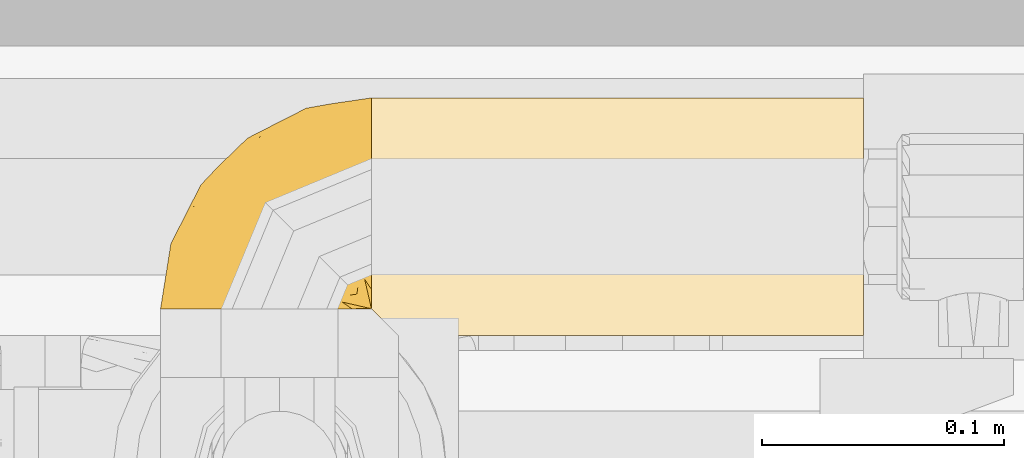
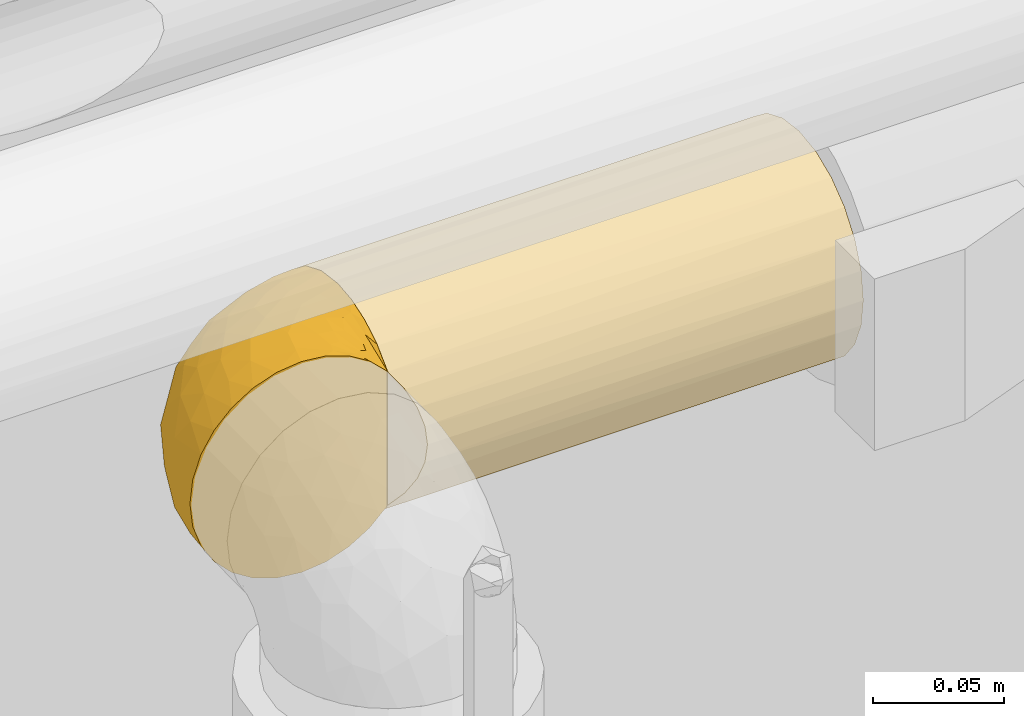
# One storey, part 45 of 94: 2 coverings.
"""IFC2X3 building model written with IfcOpenShell, lengths in millimetres."""

from ifc_helpers import new_model, entity, si_unit, converted_unit, derived_unit, direction, frame, origin, place, context, subcontext, project, spatial, faceted_brep, material, element, save


model = new_model("IFC2X3")

# Units and contexts
model_context = context("Model", 3, precision=0.01, world=origin(), true_north=direction((6.123031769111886e-17, 1.0)))
body_context = subcontext(model_context, "Body", "Model", "MODEL_VIEW")
ifc_project = project(units=[si_unit("LENGTHUNIT", "METRE", prefix="MILLI"), si_unit("AREAUNIT", "SQUARE_METRE"), si_unit("VOLUMEUNIT", "CUBIC_METRE"), converted_unit("PLANEANGLEUNIT", "DEGREE", entity("IfcRatioMeasure", 0.017453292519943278), si_unit("PLANEANGLEUNIT", "RADIAN"), dimensions=[0, 0, 0, 0, 0, 0, 0]), si_unit("MASSUNIT", "GRAM", prefix="KILO"), derived_unit("MASSDENSITYUNIT", [(si_unit("MASSUNIT", "GRAM", prefix="KILO"), 1), (si_unit("LENGTHUNIT", "METRE"), -3)]), derived_unit("IONCONCENTRATIONUNIT", [(si_unit("MASSUNIT", "GRAM", prefix="KILO"), 1), (si_unit("LENGTHUNIT", "METRE"), -3)]), derived_unit("MOMENTOFINERTIAUNIT", [(si_unit("LENGTHUNIT", "METRE"), 4)]), si_unit("TIMEUNIT", "SECOND"), si_unit("FREQUENCYUNIT", "HERTZ"), si_unit("THERMODYNAMICTEMPERATUREUNIT", "DEGREE_CELSIUS"), derived_unit("THERMALTRANSMITTANCEUNIT", [(si_unit("MASSUNIT", "GRAM", prefix="KILO"), 1), (si_unit("THERMODYNAMICTEMPERATUREUNIT", "KELVIN"), -1), (si_unit("TIMEUNIT", "SECOND"), -3)]), derived_unit("THERMALCONDUCTANCEUNIT", [(si_unit("MASSUNIT", "GRAM", prefix="KILO"), 1), (si_unit("THERMODYNAMICTEMPERATUREUNIT", "KELVIN"), -1), (si_unit("TIMEUNIT", "SECOND"), -3), (si_unit("LENGTHUNIT", "METRE"), 1)]), derived_unit("VOLUMETRICFLOWRATEUNIT", [(si_unit("LENGTHUNIT", "METRE"), 3), (si_unit("TIMEUNIT", "SECOND"), -1)]), derived_unit("MASSFLOWRATEUNIT", [(si_unit("MASSUNIT", "GRAM", prefix="KILO"), 1), (si_unit("TIMEUNIT", "SECOND"), -1)]), derived_unit("ROTATIONALFREQUENCYUNIT", [(si_unit("TIMEUNIT", "SECOND"), -1)]), si_unit("ELECTRICCURRENTUNIT", "AMPERE"), si_unit("ELECTRICVOLTAGEUNIT", "VOLT"), si_unit("POWERUNIT", "WATT"), si_unit("FORCEUNIT", "NEWTON", prefix="KILO"), si_unit("ILLUMINANCEUNIT", "LUX"), si_unit("LUMINOUSFLUXUNIT", "LUMEN"), si_unit("LUMINOUSINTENSITYUNIT", "CANDELA"), derived_unit("USERDEFINED", [(si_unit("MASSUNIT", "GRAM", prefix="KILO"), -1), (si_unit("LENGTHUNIT", "METRE"), -2), (si_unit("TIMEUNIT", "SECOND"), 3), (si_unit("LUMINOUSFLUXUNIT", "LUMEN"), 1)]), derived_unit("USERDEFINED", [(si_unit("MASSUNIT", "GRAM", prefix="KILO"), 1), (si_unit("TIMEUNIT", "SECOND"), -3), (si_unit("LENGTHUNIT", "METRE"), 3), (si_unit("ELECTRICCURRENTUNIT", "AMPERE"), -2)]), derived_unit("SOUNDPOWERUNIT", [(si_unit("MASSUNIT", "GRAM", prefix="KILO"), 1), (si_unit("TIMEUNIT", "SECOND"), -3), (si_unit("LENGTHUNIT", "METRE"), 2)]), derived_unit("SOUNDPRESSUREUNIT", [(si_unit("MASSUNIT", "GRAM", prefix="KILO"), 1), (si_unit("LENGTHUNIT", "METRE"), -1), (si_unit("TIMEUNIT", "SECOND"), -2)]), derived_unit("LINEARVELOCITYUNIT", [(si_unit("LENGTHUNIT", "METRE"), 1), (si_unit("TIMEUNIT", "SECOND"), -1)]), si_unit("PRESSUREUNIT", "PASCAL"), derived_unit("USERDEFINED", [(si_unit("MASSUNIT", "GRAM", prefix="KILO"), 1), (si_unit("LENGTHUNIT", "METRE"), -2), (si_unit("TIMEUNIT", "SECOND"), -2)]), derived_unit("LINEARFORCEUNIT", [(si_unit("MASSUNIT", "GRAM", prefix="KILO"), 1), (si_unit("TIMEUNIT", "SECOND"), -2)]), derived_unit("PLANARFORCEUNIT", [(si_unit("MASSUNIT", "GRAM", prefix="KILO"), 1), (si_unit("LENGTHUNIT", "METRE"), -1), (si_unit("TIMEUNIT", "SECOND"), -2)]), derived_unit("SPECIFICHEATCAPACITYUNIT", [(si_unit("THERMODYNAMICTEMPERATUREUNIT", "KELVIN"), -1), (si_unit("LENGTHUNIT", "METRE"), 2), (si_unit("TIMEUNIT", "SECOND"), -2)]), derived_unit("HEATINGVALUEUNIT", [(si_unit("LENGTHUNIT", "METRE"), 2), (si_unit("TIMEUNIT", "SECOND"), -2)]), derived_unit("VAPORPERMEABILITYUNIT", [(si_unit("LENGTHUNIT", "METRE"), -1), (si_unit("TIMEUNIT", "SECOND"), 1)]), derived_unit("DYNAMICVISCOSITYUNIT", [(si_unit("MASSUNIT", "GRAM", prefix="KILO"), 1), (si_unit("TIMEUNIT", "SECOND"), -1), (si_unit("LENGTHUNIT", "METRE"), -1)]), derived_unit("THERMALEXPANSIONCOEFFICIENTUNIT", [(si_unit("THERMODYNAMICTEMPERATUREUNIT", "KELVIN"), -1)]), derived_unit("MODULUSOFELASTICITYUNIT", [(si_unit("MASSUNIT", "GRAM", prefix="KILO"), 1), (si_unit("LENGTHUNIT", "METRE"), -1), (si_unit("TIMEUNIT", "SECOND"), -2)]), derived_unit("ISOTHERMALMOISTURECAPACITYUNIT", [(si_unit("LENGTHUNIT", "METRE"), 3), (si_unit("MASSUNIT", "GRAM", prefix="KILO"), -1)]), derived_unit("MOISTUREDIFFUSIVITYUNIT", [(si_unit("TIMEUNIT", "SECOND"), -1), (si_unit("LENGTHUNIT", "METRE"), 2)])], contexts=[model_context])

# Site, building, storey
site_placement = place(None, origin())
site = spatial("IfcSite", under=ifc_project, at=site_placement, Name="Default", CompositionType="ELEMENT")
building_placement = place(site_placement, origin())
building = spatial("IfcBuilding", under=site, at=building_placement, CompositionType="ELEMENT")
storey_placement = place(building_placement, origin())
storey = spatial("IfcBuildingStorey", under=building, at=storey_placement, Name="Niveau 0", CompositionType="ELEMENT", Elevation=0.0)

# Coverings
ifc_material = material(Name="Isolation - Laine minérale")
covering_1_placement = place(storey_placement, frame((-9522.891137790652, 9987.25035233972, 2800.745272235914)))
element("IfcCovering", 1, at=covering_1_placement, inside=storey, material=ifc_material, Name="Isolation des canalisations:Laine minérale", ObjectType="Isolation des canalisations:Laine minérale", PredefinedType="INSULATION", context=body_context, shape_type="Brep", body=[
    faceted_brep([(29.412134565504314, 1.5952722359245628, -6.466386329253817), (20.093252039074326, 1.5952722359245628, -12.324234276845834), (12.312548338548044, 1.5952722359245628, -20.107905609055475), (6.459227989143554, 1.5952722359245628, -29.426998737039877), (2.8261403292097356, 1.5952722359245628, -39.814613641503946), (1.5952722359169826, 1.5952722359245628, -50.7452722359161), (2.8288129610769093, 1.5952722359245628, -61.68764083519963), (6.466386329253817, 1.5952722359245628, -72.07840990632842), (12.324234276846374, 1.5952722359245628, -81.39729243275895), (20.107905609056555, 1.5952722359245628, -89.17799613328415), (29.42699873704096, 1.5952722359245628, -95.03131648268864), (39.81461364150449, 1.5952722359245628, -98.66440414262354), (50.74527223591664, 1.5952722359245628, -99.8952722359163), (61.40435822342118, 1.5952722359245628, -98.72554303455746), (71.55257335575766, 1.5952722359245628, -95.27367575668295), (80.70896636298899, 1.5952722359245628, -89.70550239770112), (88.43165280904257, 1.5952722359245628, -82.2961711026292), (88.43165280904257, 1.5952722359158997, -79.85190220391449), (88.43165280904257, 1.5952722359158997, -78.07484973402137), (88.43165280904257, 1.5952722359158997, -76.2977972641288), (88.43165280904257, 1.5952722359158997, -74.79820380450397), (88.43165280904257, 1.5952722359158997, -73.2986103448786), (88.43165280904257, 1.5952722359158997, -70.29942342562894), (88.43165280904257, 1.5952722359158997, -67.30023650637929), (88.43165280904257, 1.5952722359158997, -64.30104958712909), (88.43165280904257, 1.5952722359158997, -61.301862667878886), (88.43165280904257, 1.5952722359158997, -59.80226920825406), (88.43165280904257, 1.5952722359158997, -58.30267574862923), (88.43165280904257, 1.5952722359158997, -55.858406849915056), (88.43165280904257, 1.5952722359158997, -53.41413795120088), (88.43165280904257, 1.5952722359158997, -50.96986905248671), (88.43165280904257, 1.5952722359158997, -48.52560015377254), (88.4316528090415, 1.5952722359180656, -46.08133125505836), (88.4316528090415, 1.5952722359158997, -43.63706235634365), (88.43165280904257, 1.5952722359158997, -41.19279345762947), (88.43165280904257, 1.5952722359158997, -38.74852455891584), (88.43165280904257, 1.5952722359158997, -36.30425566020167), (88.43165280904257, 1.5952722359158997, -33.85998676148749), (88.43165280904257, 1.5952722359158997, -31.41571786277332), (88.43165280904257, 1.5952722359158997, -28.971448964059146), (88.43165280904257, 1.5952722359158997, -26.52718006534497), (88.43165280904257, 1.5952722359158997, -24.082911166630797), (88.43165280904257, 1.5952722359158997, -21.638642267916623), (88.43165280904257, 1.5952722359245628, -19.194373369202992), (80.69235262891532, 1.5952722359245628, -11.772270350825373), (71.53113811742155, 1.5952722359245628, -6.2068587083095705), (61.383900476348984, 1.5952722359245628, -2.760461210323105), (50.74527223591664, 1.5952722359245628, -1.5952722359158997), (39.802903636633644, 1.5952722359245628, -2.828812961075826), (88.74527223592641, 1.908891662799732, -82.29617110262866), (88.74527223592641, 9.641963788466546, -89.71348765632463), (88.74527223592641, 18.798688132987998, -95.27868204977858), (88.74527223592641, 28.94385431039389, -98.7272458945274), (88.74527223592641, 39.59527223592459, -99.89527223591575), (88.74527223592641, 52.31622830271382, -98.22052659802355), (88.74527223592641, 64.1702722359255, -93.31042083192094), (88.74527223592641, 74.34957053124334, -85.49957053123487), (88.74527223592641, 82.16042083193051, -75.32027223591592), (88.74527223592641, 87.07052659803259, -63.46622830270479), (88.74527223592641, 88.74527223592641, -50.7452722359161), (88.74527223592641, 87.07052659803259, -38.02431616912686), (88.74527223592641, 82.16042083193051, -26.17027223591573), (88.74527223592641, 74.34957053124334, -15.990973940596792), (88.74527223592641, 64.1702722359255, -8.180123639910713), (88.74527223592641, 52.31622830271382, -3.2700178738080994), (88.74527223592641, 39.59527223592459, -1.5952722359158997), (88.74527223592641, 28.94385431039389, -2.7632985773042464), (88.74527223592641, 18.798688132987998, -6.211862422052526), (88.74527223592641, 9.641963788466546, -11.777056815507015), (88.74527223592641, 1.908891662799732, -19.19437336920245), (88.74527223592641, 1.908891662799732, -21.63864226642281), (88.74527223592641, 1.908891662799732, -23.138235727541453), (88.74527223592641, 1.908891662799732, -25.110166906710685), (88.74527223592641, 1.908891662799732, -27.082098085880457), (88.74527223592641, 1.908891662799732, -29.05402926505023), (88.74527223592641, 1.908891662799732, -31.02596044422), (88.74527223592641, 1.908891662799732, -32.99789162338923), (88.74527223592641, 1.908891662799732, -34.969822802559), (88.74527223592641, 1.908891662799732, -36.94175398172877), (88.74527223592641, 1.908891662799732, -38.913685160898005), (88.74527223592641, 1.908891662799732, -40.88561634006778), (88.74527223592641, 1.908891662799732, -42.85754751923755), (88.74527223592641, 1.908891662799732, -44.82947869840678), (88.74527223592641, 1.908891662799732, -46.80140987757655), (88.74527223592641, 1.908891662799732, -48.773341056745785), (88.74527223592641, 1.908891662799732, -50.74527223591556), (88.74527223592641, 1.908891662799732, -52.71720341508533), (88.74527223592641, 1.908891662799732, -54.6891345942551), (88.74527223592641, 1.908891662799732, -56.661065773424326), (88.74527223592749, 1.908891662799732, -58.63299695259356), (88.74527223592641, 1.908891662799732, -60.60492813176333), (88.74527223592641, 1.908891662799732, -62.5768593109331), (88.74527223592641, 1.908891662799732, -64.54879049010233), (88.74527223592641, 1.908891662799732, -66.5207216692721), (88.74527223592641, 1.908891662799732, -69.51990859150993), (88.74527223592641, 1.908891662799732, -72.51909551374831), (88.74527223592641, 1.908891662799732, -74.96336441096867), (88.74527223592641, 1.908891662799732, -77.40763330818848), (88.74527223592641, 1.908891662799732, -79.85190220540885), (88.53090125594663, 1.8241875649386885, -47.73720476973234), (88.52210831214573, 1.8156242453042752, -49.65777912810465), (88.52122178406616, 1.8147227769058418, -40.01764283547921), (88.52777998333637, 1.8212241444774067, -37.92771907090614), (88.54092532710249, 1.8331787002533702, -53.48951745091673), (88.53506454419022, 1.828016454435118, -24.240550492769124), (88.49130573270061, 1.7792781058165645, -20.791406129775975), (88.51810292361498, 1.8114926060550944, -59.05247302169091), (88.52350981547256, 1.817034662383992, -78.62976787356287), (88.52548149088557, 1.81898896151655, -76.79032803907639), (88.5165327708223, 1.8098308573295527, -30.120454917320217), (88.52674320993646, 1.820221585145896, -28.08670561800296), (88.50469006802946, 1.7964621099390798, -57.08054182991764), (88.52964682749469, 1.8230063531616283, -63.562825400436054), (88.53317608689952, 1.826296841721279, -61.67745907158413), (88.51585328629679, 1.8091041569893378, -65.53475654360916), (88.52914218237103, 1.8225274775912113, -51.73123795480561), (88.52350981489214, 1.817034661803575, -22.3884388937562), (88.52591800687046, 1.8194169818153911, -80.4629694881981), (88.53664906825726, 1.8294378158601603, -45.815443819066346), (88.53747885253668, 1.8301744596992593, -33.98385679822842), (88.532731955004, 1.825888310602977, -35.87599747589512), (88.53426299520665, 1.8272900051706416, -67.38596354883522), (88.5337000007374, 1.8267767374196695, -43.93836928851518), (88.53493173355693, 1.8278964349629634, -26.096132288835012), (88.52350981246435, 1.8170346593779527, -19.19437336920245), (88.4948797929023, 1.747915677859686, -19.194373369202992), (88.46624977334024, 1.678796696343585, -19.194373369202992), (88.52350981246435, 1.8170346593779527, -82.29617110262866), (88.59262879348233, 1.845664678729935, -82.2961711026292), (88.66174777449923, 1.8742946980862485, -82.2961711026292), (88.51000647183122, 1.8026539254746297, -69.27838714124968), (88.53042484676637, 1.8237404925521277, -32.054952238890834), (88.5224676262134, 1.8159875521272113, -55.242256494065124), (88.52470424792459, 1.8182226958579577, -41.99993111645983), (88.5057932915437, 1.7977740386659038, -72.07129245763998), (88.5274414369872, 1.8208977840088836, -74.04840730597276), (88.66174777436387, 1.8742946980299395, -19.194373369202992), (88.5926287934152, 1.8456646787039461, -19.194373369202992), (88.46624977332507, 1.678796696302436, -82.2961711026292), (88.4948797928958, 1.7479156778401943, -82.2961711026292), (85.22080157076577, 23.495219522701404, -97.28026065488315), (85.93611072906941, 13.747756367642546, -92.74636463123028), (81.0780784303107, 22.409779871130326, -97.28026068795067), (83.13289242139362, 10.562522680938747, -91.53496062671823), (79.24527223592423, 37.049754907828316, -99.8952722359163), (81.28890223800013, 37.59734391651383, -99.8952722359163), (55.83630689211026, 20.595272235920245, -99.8952722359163), (66.39553001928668, 16.02014974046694, -98.55504664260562), (67.9404040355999, 9.26167767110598, -97.27709237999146), (69.74527223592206, 34.50423757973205, -99.8952722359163), (80.67378389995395, 9.667897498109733, -92.08523869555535), (79.7889209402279, 7.2029124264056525, -91.52705697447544), (74.32109358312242, 23.944746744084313, -98.554902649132), (66.85470593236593, 5.119390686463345, -97.27709230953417), (76.60336361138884, 4.4028932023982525, -92.73988957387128), (79.64911936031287, 17.541506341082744, -95.7999166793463), (52.743200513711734, 9.051642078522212, -99.8952722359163), (53.29078956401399, 11.095272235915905, -99.8952722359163), (73.61168493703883, 16.728859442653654, -97.0079248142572), (62.790789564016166, 27.549754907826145, -99.8952722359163), (73.87988529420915, 12.071559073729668, -95.72448717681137), (75.32913676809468, 47.623950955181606, -98.87881941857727), (65.9107418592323, 44.00144112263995, -98.83301276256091), (53.847614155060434, 58.899698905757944, -90.35896612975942), (59.13651173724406, 72.66771487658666, -80.6658965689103), (71.166122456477, 67.20155656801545, -89.73858973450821), (67.0054527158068, 54.07984229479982, -96.15395204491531), (78.8805128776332, 57.54110754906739, -96.15395161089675), (37.51978749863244, 72.10110329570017, -50.7452722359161), (61.81444117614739, 84.47984763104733, -50.7452722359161), (53.875201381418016, 80.24801351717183, -61.15080493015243), (25.784943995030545, 13.851436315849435, -92.3663011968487), (36.24418276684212, 15.165285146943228, -97.13949915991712), (29.56288236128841, 60.77765845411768, -68.84359020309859), (30.77068194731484, 55.38583609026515, -77.72163513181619), (15.292222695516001, 43.89737524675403, -65.87522637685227), (71.31385843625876, 86.12648113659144, -59.79441061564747), (47.2410274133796, 73.23168363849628, -70.98072673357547), (43.50389303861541, 64.74738573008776, -79.7421140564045), (75.2898525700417, 77.40373146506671, -80.66589650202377), (67.10273039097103, 82.14716981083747, -69.55416171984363), (37.099200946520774, 52.829115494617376, -85.50619835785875), (44.51517687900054, 48.878965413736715, -91.98084112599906), (33.70477633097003, 40.607220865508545, -90.08477530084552), (44.05169469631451, 28.769953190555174, -97.76701228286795), (30.044081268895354, 27.448445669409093, -92.36630165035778), (18.312338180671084, 19.800365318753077, -85.5061967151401), (5.8606968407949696, 28.52610329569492, -50.7452722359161), (7.041406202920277, 22.71562192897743, -66.98519337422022), (25.614469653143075, 42.31748570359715, -82.95460966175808), (15.886915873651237, 33.68382770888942, -76.90235033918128), (10.600409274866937, 16.806973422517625, -76.90235057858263), (38.50378416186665, 71.07858054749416, -62.41468564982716), (25.345180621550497, 60.332491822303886, -59.14435954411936), (53.163504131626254, 33.37332146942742, -98.92729244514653), (18.239441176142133, 52.82075697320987, -50.7452722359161), (52.694698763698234, 43.46542968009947, -96.76809515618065), (58.17589226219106, 79.20017463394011, -31.93638344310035), (71.70091272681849, 86.24488809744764, -41.905436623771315), (54.57433327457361, 80.83807017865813, -41.62511866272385), (42.49805076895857, 72.52816019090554, -35.352647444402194), (75.06235489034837, 83.87397883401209, -31.936382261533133), (24.5251412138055, 35.798660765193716, -15.997222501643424), (25.786342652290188, 48.02046276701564, -22.50195470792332), (15.878231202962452, 33.68736739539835, -24.603113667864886), (37.089792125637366, 52.83844921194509, -15.997599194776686), (35.71336208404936, 59.75598123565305, -23.203879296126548), (36.231508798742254, 15.17001623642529, -4.355753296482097), (70.53804152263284, 45.55141709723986, -2.5375085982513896), (69.74527223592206, 34.50423757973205, -1.5952722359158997), (79.24527223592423, 37.049754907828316, -1.5952722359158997), (7.0362994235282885, 22.71467774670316, -34.51880576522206), (69.24086116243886, 76.07714087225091, -20.82464795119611), (30.030512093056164, 27.454651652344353, -9.133617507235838), (25.77024521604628, 13.854008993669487, -9.133617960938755), (76.87540408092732, 68.47065883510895, -11.751955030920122), (74.00473445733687, 56.45843349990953, -5.336592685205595), (48.41047025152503, 68.0885450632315, -21.865705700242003), (62.62553049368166, 64.29272071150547, -11.751954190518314), (31.220776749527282, 66.01125638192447, -41.9823852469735), (29.560345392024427, 60.78019542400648, -32.65601578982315), (79.82666983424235, 48.01911236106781, -2.477909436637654), (10.591274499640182, 16.809109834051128, -24.603113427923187), (15.287247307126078, 43.900853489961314, -35.63402191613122), (18.29950680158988, 19.803681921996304, -15.997600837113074), (44.04987097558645, 28.78672684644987, -3.726659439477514), (55.83630689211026, 20.595272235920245, -1.5952722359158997), (54.23536248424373, 35.48506655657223, -2.7012349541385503), (62.790789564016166, 27.549754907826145, -1.5952722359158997), (52.743200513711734, 9.051642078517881, -1.5952722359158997), (53.29078956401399, 11.095272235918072, -1.5952722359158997), (48.412115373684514, 53.16291239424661, -9.986684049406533), (64.143047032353, 52.0530845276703, -5.0637132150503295), (40.10640265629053, 41.40103739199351, -8.340625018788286), (62.89073418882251, 40.721221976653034, -2.407172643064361), (47.672778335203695, 60.91677547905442, -15.399468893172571), (55.38955823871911, 45.94061161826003, -4.812375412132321), (81.07807840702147, 22.409778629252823, -4.210284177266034), (78.26566497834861, 16.464254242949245, -5.763920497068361), (74.32072912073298, 23.943292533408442, -2.935886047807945), (85.22080145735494, 23.49521891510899, -4.210284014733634), (85.93611080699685, 13.747755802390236, -8.744180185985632), (83.13257230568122, 10.564867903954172, -9.954133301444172), (82.68198005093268, 7.656624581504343, -11.377788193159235), (73.61706381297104, 16.72348133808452, -4.485349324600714), (79.75777141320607, 7.216517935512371, -9.940890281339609), (67.91845358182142, 9.263185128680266, -4.2062740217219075), (66.83334757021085, 5.119593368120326, -4.206273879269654), (76.58449008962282, 4.4058785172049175, -8.739069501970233), (66.39770760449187, 16.01862728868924, -2.9361309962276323), (72.78382599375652, 10.692146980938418, -5.684713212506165)], [[[0, 1, 2, 3, 4, 5, 6, 7, 8, 9, 10, 11, 12, 13, 14, 15, 16, 17, 18, 19, 20, 21, 22, 23, 24, 25, 26, 27, 28, 29, 30, 31, 32, 33, 34, 35, 36, 37, 38, 39, 40, 41, 42, 43, 44, 45, 46, 47, 48]], [[49, 50, 51, 52, 53, 54, 55, 56, 57, 58, 59, 60, 61, 62, 63, 64, 65, 66, 67, 68, 69, 70, 71, 72, 73, 74, 75, 76, 77, 78, 79, 80, 81, 82, 83, 84, 85, 86, 87, 88, 89, 90, 91, 92, 93, 94, 95, 96, 97, 98]], [[99, 100, 84]], [[101, 102, 35]], [[86, 103, 87]], [[72, 71, 104]], [[105, 70, 69]], [[27, 26, 106]], [[18, 107, 108]], [[109, 74, 110]], [[28, 27, 111]], [[25, 112, 113]], [[108, 97, 96]], [[114, 93, 92]], [[103, 86, 115]], [[97, 107, 98]], [[116, 71, 70]], [[107, 17, 117]], [[79, 102, 101]], [[99, 118, 32]], [[77, 119, 120]], [[121, 93, 114]], [[112, 91, 113]], [[89, 111, 106]], [[40, 39, 110]], [[107, 97, 108]], [[32, 118, 122]], [[92, 91, 112]], [[37, 120, 119]], [[85, 115, 86]], [[70, 105, 116]], [[72, 123, 73]], [[105, 124, 125, 126, 43]], [[117, 17, 16]], [[41, 116, 42]], [[117, 127, 128, 129, 49]], [[110, 123, 40]], [[42, 116, 105]], [[121, 23, 130]], [[24, 114, 112]], [[114, 24, 23]], [[104, 123, 72]], [[92, 112, 114]], [[104, 116, 41]], [[24, 112, 25]], [[110, 73, 123]], [[36, 120, 37]], [[40, 123, 41]], [[75, 74, 109]], [[131, 76, 75]], [[119, 131, 37]], [[109, 110, 39]], [[109, 39, 38]], [[74, 73, 110]], [[123, 104, 41]], [[116, 104, 71]], [[26, 25, 113]], [[113, 90, 106]], [[88, 87, 132]], [[113, 106, 26]], [[77, 76, 119]], [[132, 111, 88]], [[106, 111, 27]], [[132, 28, 111]], [[88, 111, 89]], [[89, 106, 90]], [[113, 91, 90]], [[131, 119, 76]], [[38, 37, 131]], [[120, 36, 102]], [[131, 109, 38]], [[109, 131, 75]], [[79, 78, 102]], [[78, 120, 102]], [[78, 77, 120]], [[122, 81, 133]], [[36, 35, 102]], [[33, 122, 133]], [[80, 79, 101]], [[34, 101, 35]], [[132, 29, 28]], [[81, 80, 133]], [[29, 103, 115]], [[30, 29, 115]], [[87, 103, 132]], [[100, 115, 85]], [[31, 30, 100]], [[115, 100, 30]], [[32, 31, 99]], [[118, 82, 122]], [[100, 85, 84]], [[99, 83, 118]], [[82, 118, 83]], [[33, 32, 122]], [[83, 99, 84]], [[100, 99, 31]], [[34, 33, 133]], [[122, 82, 81]], [[133, 101, 34]], [[101, 133, 80]], [[134, 95, 94]], [[23, 121, 114]], [[132, 103, 29]], [[121, 94, 93]], [[94, 121, 130]], [[98, 107, 117]], [[108, 20, 19, 18]], [[21, 135, 134]], [[20, 135, 21]], [[134, 135, 95]], [[108, 96, 135]], [[108, 135, 20]], [[135, 96, 95]], [[134, 22, 21]], [[130, 22, 134]], [[42, 105, 43]], [[105, 69, 136, 137, 124]], [[98, 117, 49]], [[117, 16, 138, 139, 127]], [[18, 17, 107]], [[94, 130, 134]], [[22, 130, 23]], [[140, 141, 142]], [[143, 129, 128, 127]], [[52, 144, 145, 53]], [[146, 147, 148]], [[142, 149, 144]], [[150, 127, 151]], [[51, 140, 52]], [[142, 152, 149]], [[52, 140, 144]], [[129, 143, 141]], [[14, 13, 153]], [[148, 151, 154]], [[155, 141, 143]], [[151, 138, 154]], [[14, 153, 154]], [[16, 15, 138]], [[13, 12, 156, 157]], [[152, 155, 158]], [[159, 158, 147]], [[157, 148, 153]], [[14, 154, 15]], [[50, 49, 129]], [[50, 129, 141]], [[141, 51, 50]], [[160, 148, 147]], [[146, 148, 157]], [[138, 15, 154]], [[150, 158, 155]], [[151, 127, 139, 138]], [[141, 140, 51]], [[144, 140, 142]], [[157, 153, 13]], [[154, 153, 148]], [[149, 152, 159]], [[160, 147, 158]], [[147, 146, 159]], [[155, 152, 142]], [[159, 152, 158]], [[127, 150, 143]], [[160, 150, 151]], [[150, 160, 158]], [[148, 160, 151]], [[141, 155, 142]], [[155, 143, 150]], [[156, 12, 11]], [[161, 149, 162]], [[163, 164, 165]], [[166, 167, 161]], [[168, 169, 170]], [[55, 165, 56]], [[171, 172, 10]], [[173, 174, 175]], [[58, 176, 59]], [[173, 177, 178]], [[179, 57, 56]], [[55, 167, 165]], [[170, 180, 177]], [[57, 179, 180]], [[167, 55, 54]], [[181, 182, 183]], [[184, 146, 172]], [[172, 185, 184]], [[186, 185, 171]], [[186, 9, 8]], [[172, 146, 157, 156]], [[172, 11, 10]], [[173, 178, 174]], [[6, 187, 188]], [[189, 186, 190]], [[191, 186, 8]], [[175, 190, 188]], [[168, 192, 193]], [[189, 190, 174]], [[57, 180, 58]], [[8, 7, 191]], [[188, 7, 6]], [[6, 5, 187]], [[190, 191, 188]], [[159, 194, 162]], [[175, 187, 195]], [[177, 180, 164]], [[10, 9, 171]], [[176, 180, 170]], [[156, 11, 172]], [[163, 165, 166]], [[179, 165, 164]], [[54, 53, 145]], [[185, 189, 183]], [[184, 196, 194]], [[188, 191, 7]], [[186, 191, 190]], [[186, 171, 9]], [[172, 171, 185]], [[187, 175, 188]], [[193, 175, 195]], [[196, 163, 166]], [[163, 181, 178]], [[162, 166, 161]], [[184, 185, 183]], [[178, 177, 164]], [[177, 192, 170]], [[177, 173, 192]], [[176, 170, 169]], [[59, 176, 169]], [[58, 180, 176]], [[193, 192, 173]], [[168, 170, 192]], [[175, 193, 173]], [[168, 193, 195]], [[163, 178, 164]], [[184, 194, 146]], [[178, 181, 174]], [[189, 174, 181]], [[175, 174, 190]], [[183, 189, 181]], [[186, 189, 185]], [[182, 181, 163]], [[183, 182, 184]], [[163, 196, 182]], [[184, 182, 196]], [[165, 179, 56]], [[180, 179, 164]], [[161, 54, 145]], [[165, 167, 166]], [[54, 161, 167]], [[161, 145, 144, 149]], [[159, 162, 149]], [[196, 166, 162]], [[162, 194, 196]], [[146, 194, 159]], [[197, 198, 199]], [[59, 169, 198]], [[197, 199, 200]], [[198, 197, 201]], [[202, 203, 204]], [[61, 60, 201]], [[205, 206, 203]], [[0, 48, 207]], [[208, 209, 210]], [[187, 4, 211]], [[201, 212, 61]], [[213, 214, 207]], [[62, 215, 63]], [[63, 215, 216]], [[3, 211, 4]], [[217, 218, 212]], [[219, 220, 200]], [[216, 208, 221]], [[3, 2, 222]], [[63, 216, 64]], [[62, 61, 212]], [[211, 3, 222]], [[5, 4, 187]], [[217, 197, 200]], [[203, 223, 204]], [[2, 1, 224]], [[225, 213, 207]], [[204, 222, 224]], [[1, 0, 214]], [[204, 224, 202]], [[207, 226, 225]], [[227, 226, 228]], [[223, 211, 204]], [[214, 224, 1]], [[202, 224, 213]], [[48, 47, 229]], [[207, 229, 230, 226]], [[211, 223, 187]], [[218, 231, 232]], [[48, 229, 207]], [[205, 233, 231]], [[233, 213, 225]], [[217, 212, 197]], [[215, 212, 218]], [[228, 234, 227]], [[233, 205, 202]], [[208, 234, 209]], [[64, 221, 65]], [[235, 205, 231]], [[207, 214, 0]], [[224, 214, 213]], [[224, 222, 2]], [[211, 222, 204]], [[219, 223, 220]], [[187, 223, 195]], [[227, 233, 225]], [[234, 228, 209]], [[231, 233, 236]], [[221, 208, 210]], [[232, 208, 216]], [[65, 221, 210]], [[216, 221, 64]], [[233, 202, 213]], [[203, 202, 205]], [[205, 235, 206]], [[223, 203, 220]], [[200, 206, 217]], [[220, 203, 206]], [[232, 231, 236]], [[235, 218, 217]], [[212, 215, 62]], [[216, 215, 218]], [[218, 232, 216]], [[234, 232, 236]], [[232, 234, 208]], [[234, 236, 227]], [[233, 227, 236]], [[226, 227, 225]], [[198, 201, 60]], [[212, 201, 197]], [[59, 198, 60]], [[198, 169, 199]], [[169, 168, 199]], [[219, 200, 199]], [[219, 199, 168]], [[200, 220, 206]], [[168, 195, 219]], [[223, 219, 195]], [[218, 235, 231]], [[206, 235, 217]], [[66, 65, 210]], [[209, 237, 210]], [[238, 237, 239]], [[67, 240, 241]], [[242, 136, 241]], [[243, 137, 242]], [[243, 244, 245]], [[66, 240, 67]], [[136, 69, 68]], [[136, 68, 241]], [[246, 226, 230]], [[67, 241, 68]], [[210, 237, 240]], [[45, 247, 46]], [[209, 239, 237]], [[246, 247, 248]], [[46, 247, 230]], [[249, 250, 244]], [[239, 228, 244]], [[226, 246, 249]], [[250, 248, 245]], [[44, 43, 126]], [[237, 242, 241]], [[248, 45, 44]], [[44, 126, 248]], [[46, 230, 229, 47]], [[245, 126, 125]], [[126, 245, 248]], [[243, 124, 137]], [[210, 240, 66]], [[241, 240, 237]], [[248, 247, 45]], [[230, 247, 246]], [[226, 249, 228]], [[238, 239, 244]], [[239, 209, 228]], [[250, 249, 246]], [[228, 249, 244]], [[243, 242, 238]], [[136, 242, 137]], [[124, 243, 125]], [[125, 243, 245]], [[243, 238, 244]], [[237, 238, 242]], [[248, 250, 246]], [[244, 250, 245]]]),
])
covering_2_placement = place(storey_placement, frame((-9435.741137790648, 9976.120352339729, 2800.725272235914)))
element("IfcCovering", 2, at=covering_2_placement, inside=storey, material=ifc_material, Name="Isolation des canalisations:Laine minérale", ObjectType="Isolation des canalisations:Laine minérale", PredefinedType="INSULATION", context=body_context, shape_type="Brep", body=[
    faceted_brep([(1.5952722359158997, 20.474956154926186, -89.43799982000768), (1.5952722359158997, 12.72527223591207, -81.86619226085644), (1.5952722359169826, 12.725272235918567, -19.584352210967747), (1.5952722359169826, 20.47495615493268, -12.012544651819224), (1.5952722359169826, 29.69648789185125, -6.323164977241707), (1.5952722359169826, 39.940498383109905, -2.7935963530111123), (1.5952722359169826, 50.72527223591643, -1.5952722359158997), (1.5952722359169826, 63.44105192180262, -3.26933639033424), (1.5952722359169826, 75.29027223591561, -8.177444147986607), (1.5952722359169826, 85.46542839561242, -15.985116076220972), (1.5952722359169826, 93.2731003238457, -26.160272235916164), (1.5952722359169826, 98.18120808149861, -38.00949255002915), (1.5952722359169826, 99.85527223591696, -50.72527223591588), (1.5952722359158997, 98.18120808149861, -63.44105192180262), (1.5952722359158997, 93.2731003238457, -75.29027223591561), (1.5952722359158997, 85.46542839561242, -85.4654283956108), (1.5952722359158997, 75.29027223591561, -93.27310032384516), (1.5952722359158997, 63.44105192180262, -98.18120808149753), (1.5952722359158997, 50.72527223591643, -99.85527223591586), (1.5952722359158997, 39.94049838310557, -98.65694811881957), (1.5952722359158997, 29.696487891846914, -95.1273794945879), (204.85411182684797, 8.17744414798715, -75.29027223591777), (204.85411182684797, 15.98511607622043, -85.46542839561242), (204.85411182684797, 26.160272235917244, -93.27310032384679), (204.85411182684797, 38.00949255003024, -98.18120808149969), (204.85411182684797, 50.72527223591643, -99.8552722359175), (204.85411182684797, 63.44105192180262, -98.18120808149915), (204.85411182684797, 75.29027223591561, -93.27310032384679), (204.85411182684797, 85.46542839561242, -85.46542839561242), (204.85411182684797, 93.2731003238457, -75.29027223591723), (204.85411182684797, 98.18120808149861, -63.44105192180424), (204.85411182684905, 99.85527223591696, -50.72527223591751), (204.85411182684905, 98.18120808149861, -38.00949255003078), (204.85411182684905, 93.2731003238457, -26.160272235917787), (204.85411182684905, 85.46542839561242, -15.985116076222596), (204.85411182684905, 75.29027223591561, -8.177444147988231), (204.85411182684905, 63.44105192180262, -3.2693363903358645), (204.85411182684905, 50.72527223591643, -1.595272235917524), (204.85411182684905, 38.00949255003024, -3.2693363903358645), (204.85411182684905, 26.160272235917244, -8.177444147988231), (204.85411182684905, 15.98511607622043, -15.985116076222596), (204.85411182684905, 8.17744414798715, -26.160272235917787), (204.85411182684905, 3.26933639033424, -38.00949255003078), (204.85411182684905, 1.5952722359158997, -50.72527223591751), (204.85411182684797, 3.26933639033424, -63.44105192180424), (9.859172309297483, 4.461372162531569, -67.26033951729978), (12.003444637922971, 2.3170998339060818, -59.11608534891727), (12.725272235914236, 1.5952722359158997, -50.72527223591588), (6.3554633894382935, 7.96508108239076, -74.91872078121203), (12.003444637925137, 2.3170998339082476, -42.334459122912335), (9.85917230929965, 4.461372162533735, -34.190204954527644), (6.355463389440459, 7.965081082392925, -26.531823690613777)], [[[0, 1, 2, 3, 4, 5, 6, 7, 8, 9, 10, 11, 12, 13, 14, 15, 16, 17, 18, 19, 20]], [[21, 22, 23, 24, 25, 26, 27, 28, 29, 30, 31, 32, 33, 34, 35, 36, 37, 38, 39, 40, 41, 42, 43, 44]], [[30, 29, 14, 13]], [[31, 30, 13, 12]], [[29, 28, 15, 14]], [[17, 16, 27, 26]], [[18, 17, 26, 25]], [[28, 27, 16, 15]], [[19, 25, 24]], [[20, 24, 23]], [[0, 23, 22]], [[18, 25, 19]], [[19, 24, 20]], [[23, 0, 20]], [[22, 1, 0]], [[45, 21, 44]], [[44, 43, 46]], [[47, 46, 43]], [[48, 1, 21]], [[46, 45, 44]], [[48, 21, 45]], [[21, 1, 22]], [[49, 47, 43]], [[49, 43, 42]], [[50, 42, 41]], [[50, 49, 42]], [[2, 51, 41]], [[50, 41, 51]], [[41, 40, 2]], [[3, 40, 39]], [[4, 39, 38]], [[5, 38, 37]], [[3, 39, 4]], [[4, 38, 5]], [[37, 6, 5]], [[40, 3, 2]], [[7, 6, 37, 36]], [[8, 7, 36, 35]], [[35, 34, 9, 8]], [[11, 10, 33, 32]], [[12, 11, 32, 31]], [[34, 33, 10, 9]], [[1, 48, 45, 46, 47, 49, 50, 51, 2]]]),
])

save(model, "model.ifc")
